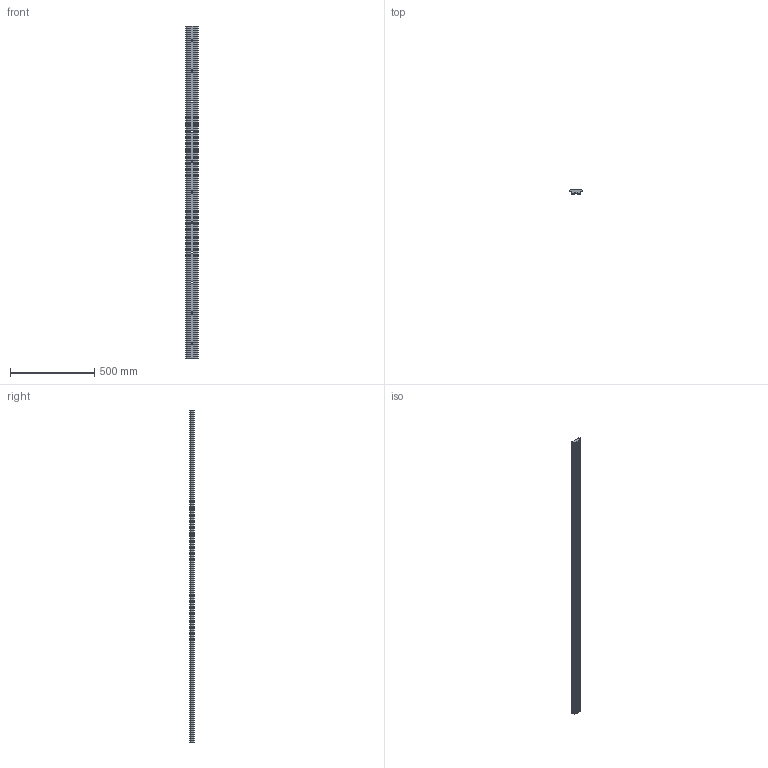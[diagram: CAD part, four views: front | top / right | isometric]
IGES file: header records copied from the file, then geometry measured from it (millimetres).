
Start section: 3D InterOp IGES (v. 2019 1.0.2), Spatial Corp. Copyright (c) 1999-2017.
Global section: file name: NL76 L1976 P3.igs; native system: Spatial Corp.; preprocessor: 3D InterOp GENERIC/IGES 3.0; author: Noname; organization: Noname; date: 20220704.105723; units: millimetre
Bounding box: 76.45 x 24.41 x 1976 mm (x, y, z)
Surface area: 411383.6 mm2 (no closed solid volume)
Topology: 0 solids, 0 shells, 93 faces, 480 edges, 480 vertices
Faces by surface type: revolution 56, extrusion 37
